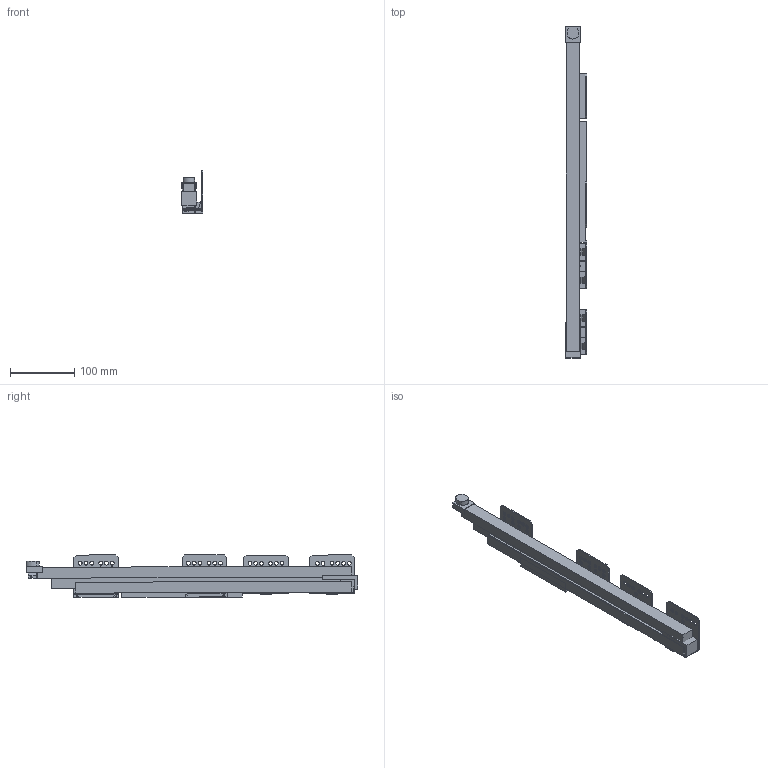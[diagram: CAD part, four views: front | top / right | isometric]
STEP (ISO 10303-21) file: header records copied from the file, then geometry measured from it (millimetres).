
FILE_DESCRIPTION (( 'STEP AP214' ), '1' );
FILE_NAME ('_IMOS Dynamic-XP VA 80kg NL500 RE Tipmatic.step', '2010-07-08T13:28:02', ( 'grass' ), ( '' ), 'SwSTEP 2.0', 'SolidWorks 2010', '' );
FILE_SCHEMA (( 'AUTOMOTIVE_DESIGN' ));
Length unit declared in the file: millimetre
Products named in the file (1): _IMOS Dynamic-XP VA 80kg NL500 RE Tipmatic
Bounding box: 33.14 x 518.02 x 66.67 mm (x, y, z)
Volume: 473515.5 mm3; surface area: 191918.6 mm2
Topology: 10 solids, 10 shells, 280 faces, 772 edges, 514 vertices
Faces by surface type: plane 193, cylinder 87
Entity records: 9171 total; most frequent: CARTESIAN_POINT 1567, ORIENTED_EDGE 1544, DIRECTION 1510, EDGE_CURVE 772, LINE 596, VECTOR 596, VERTEX_POINT 514, AXIS2_PLACEMENT_3D 457
